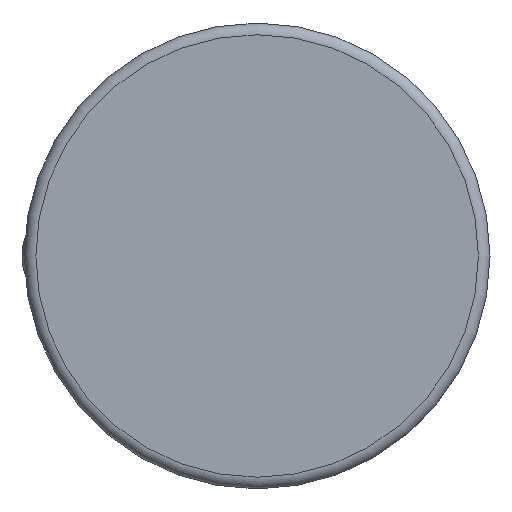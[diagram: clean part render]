
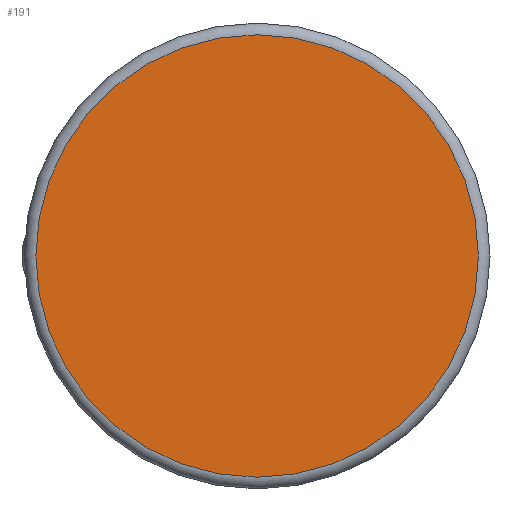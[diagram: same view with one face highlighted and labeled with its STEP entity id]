
A CAD part, front view. The second image highlights one B-rep face of the part: STEP entity #191.
In plain terms, the highlighted planar face has unit normal (0, -1, 0).
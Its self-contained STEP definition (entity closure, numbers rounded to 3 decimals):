
#191 = ADVANCED_FACE( '', ( #371 ), #372, .F. );
#371 = FACE_OUTER_BOUND( '', #553, .T. );
#372 = PLANE( '', #554 );
#553 = EDGE_LOOP( '', ( #843 ) );
#554 = AXIS2_PLACEMENT_3D( '', #844, #845, #846 );
#843 = ORIENTED_EDGE( '', *, *, #1105, .T. );
#844 = CARTESIAN_POINT( '', ( 19., 0., 0. ) );
#845 = DIRECTION( '', ( 0., 1., 0. ) );
#846 = DIRECTION( '', ( 0., 0., 1. ) );
#1105 = EDGE_CURVE( '', #1292, #1292, #1293, .T. );
#1292 = VERTEX_POINT( '', #1713 );
#1293 = CIRCLE( '', #1714, 19. );
#1713 = CARTESIAN_POINT( '', ( 0., 0., -19. ) );
#1714 = AXIS2_PLACEMENT_3D( '', #1904, #1905, #1906 );
#1904 = CARTESIAN_POINT( '', ( 0., 0., 0. ) );
#1905 = DIRECTION( '', ( 0., -1., 0. ) );
#1906 = DIRECTION( '', ( 0., 0., -1. ) );
